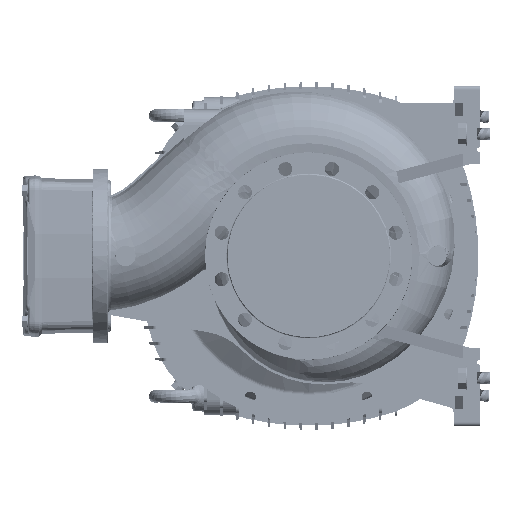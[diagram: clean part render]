
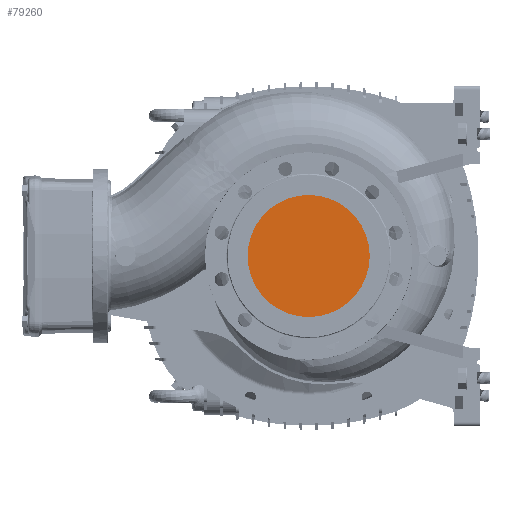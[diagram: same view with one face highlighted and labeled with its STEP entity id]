
A CAD part, left-side view. The second image highlights one B-rep face of the part: STEP entity #79260.
In plain terms, the highlighted planar face has unit normal (-1, 0, 0).
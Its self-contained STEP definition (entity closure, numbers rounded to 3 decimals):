
#2080 = FACE_OUTER_BOUND ( 'NONE', #120632, .T. ) ;
#9949 = DIRECTION ( 'NONE',  ( 1., 0., 0. ) ) ;
#13234 = VERTEX_POINT ( 'NONE', #59642 ) ;
#13635 = CIRCLE ( 'NONE', #111784, 100. ) ;
#27818 = AXIS2_PLACEMENT_3D ( 'NONE', #132005, #9949, #79279 ) ;
#37525 = DIRECTION ( 'NONE',  ( 1., 0., 0. ) ) ;
#48993 = DIRECTION ( 'NONE',  ( 0., 0., -1. ) ) ;
#55628 = CARTESIAN_POINT ( 'NONE',  ( -155., 101.2, -101.2 ) ) ;
#56507 = DIRECTION ( 'NONE',  ( -1., 0., 0. ) ) ;
#59642 = CARTESIAN_POINT ( 'NONE',  ( -155., 0., -100. ) ) ;
#68277 = AXIS2_PLACEMENT_3D ( 'NONE', #55628, #56507, #110092 ) ;
#79260 = ADVANCED_FACE ( 'NONE', ( #2080 ), #151311, .T. ) ;
#79279 = DIRECTION ( 'NONE',  ( 0., 0., -1. ) ) ;
#110092 = DIRECTION ( 'NONE',  ( 0., -1., 0. ) ) ;
#111784 = AXIS2_PLACEMENT_3D ( 'NONE', #143818, #37525, #48993 ) ;
#112894 = VERTEX_POINT ( 'NONE', #173185 ) ;
#119108 = EDGE_CURVE ( 'NONE', #13234, #112894, #145666, .T. ) ;
#120632 = EDGE_LOOP ( 'NONE', ( #162112, #148426 ) ) ;
#132005 = CARTESIAN_POINT ( 'NONE',  ( -155., 0., 0. ) ) ;
#139914 = EDGE_CURVE ( 'NONE', #112894, #13234, #13635, .T. ) ;
#143818 = CARTESIAN_POINT ( 'NONE',  ( -155., 0., 0. ) ) ;
#145666 = CIRCLE ( 'NONE', #27818, 100. ) ;
#148426 = ORIENTED_EDGE ( 'NONE', *, *, #139914, .F. ) ;
#151311 = PLANE ( 'NONE',  #68277 ) ;
#162112 = ORIENTED_EDGE ( 'NONE', *, *, #119108, .F. ) ;
#173185 = CARTESIAN_POINT ( 'NONE',  ( -155., 0., 100. ) ) ;
